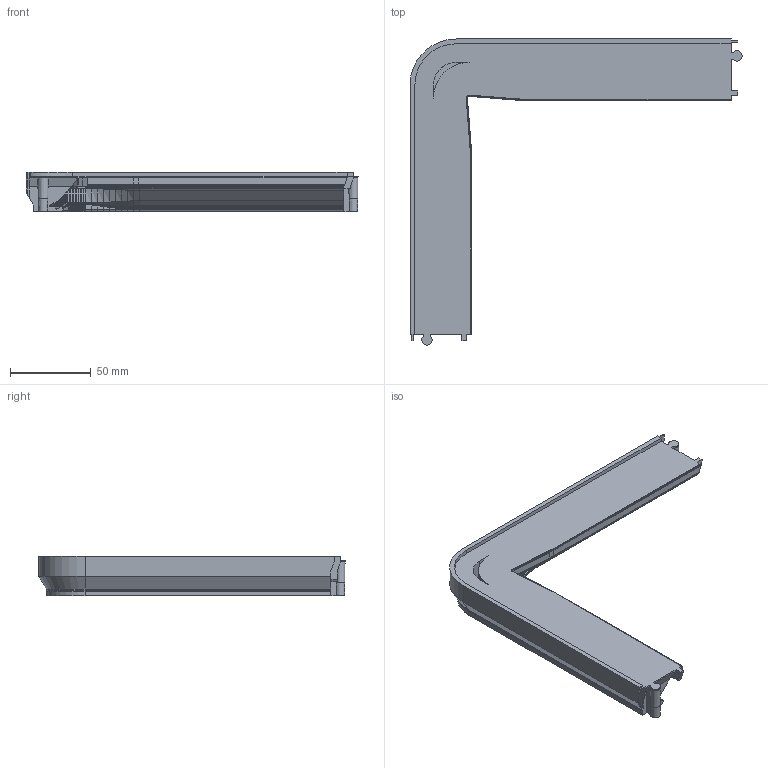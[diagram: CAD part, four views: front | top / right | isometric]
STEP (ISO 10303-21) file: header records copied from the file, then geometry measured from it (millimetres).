
FILE_DESCRIPTION(('Open CASCADE Model'),'2;1');
FILE_NAME('Open CASCADE Shape Model','2026-10-23T12:29:57',('Author'),( 'Open CASCADE'),'Open CASCADE STEP processor 8.0','build123d', 'Unknown');
FILE_SCHEMA(('AUTOMOTIVE_DESIGN { 1 0 10303 214 1 1 1 1 }'));
Products named in the file (1): SOLID
Bounding box: 205.18 x 189.18 x 24.5 mm (x, y, z)
Volume: 188991.1 mm3; surface area: 51014.8 mm2
Topology: 1 solids, 1 shells, 2421 faces, 5237 edges, 2819 vertices
Faces by surface type: bspline 1916, plane 492, cone 8, cylinder 5
Entity records: 126155 total; most frequent: CARTESIAN_POINT 32934, DIRECTION 11812, LINE 10759, VECTOR 10759, ORIENTED_EDGE 10474, PCURVE 10474, DEFINITIONAL_REPRESENTATION 10474, EDGE_CURVE 5237
